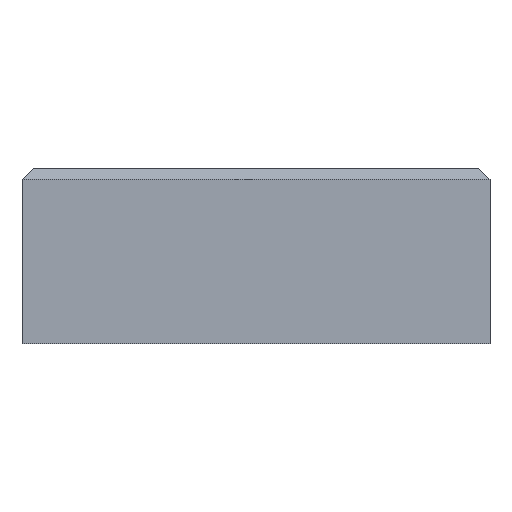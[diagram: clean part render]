
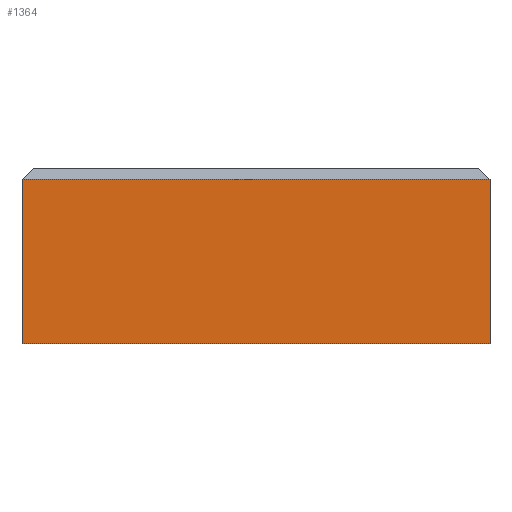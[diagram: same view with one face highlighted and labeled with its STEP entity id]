
A CAD part, front view. The second image highlights one B-rep face of the part: STEP entity #1364.
In plain terms, the highlighted planar face has unit normal (0, -1, 0).
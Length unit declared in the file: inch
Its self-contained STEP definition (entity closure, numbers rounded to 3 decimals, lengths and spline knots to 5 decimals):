
#170=FACE_OUTER_BOUND('',#250,.T.);
#250=EDGE_LOOP('',(#1243,#1244,#1245,#1246));
#315=LINE('',#2064,#459);
#322=LINE('',#2079,#466);
#343=LINE('',#2152,#487);
#394=LINE('',#2290,#538);
#459=VECTOR('',#1651,0.3937);
#466=VECTOR('',#1666,0.3937);
#487=VECTOR('',#1745,0.3937);
#538=VECTOR('',#1896,0.3937);
#598=VERTEX_POINT('',#2056);
#600=VERTEX_POINT('',#2062);
#604=VERTEX_POINT('',#2078);
#627=VERTEX_POINT('',#2151);
#745=EDGE_CURVE('',#600,#598,#315,.T.);
#752=EDGE_CURVE('',#604,#598,#322,.T.);
#790=EDGE_CURVE('',#627,#604,#343,.T.);
#858=EDGE_CURVE('',#627,#600,#394,.T.);
#1243=ORIENTED_EDGE('',*,*,#745,.F.);
#1244=ORIENTED_EDGE('',*,*,#858,.F.);
#1245=ORIENTED_EDGE('',*,*,#790,.T.);
#1246=ORIENTED_EDGE('',*,*,#752,.T.);
#1292=PLANE('',#1508);
#1364=ADVANCED_FACE('',(#170),#1292,.T.);
#1508=AXIS2_PLACEMENT_3D('',#2291,#1897,#1898);
#1651=DIRECTION('',(1.,0.,0.));
#1666=DIRECTION('',(0.,0.,1.));
#1745=DIRECTION('',(1.,0.,0.));
#1896=DIRECTION('',(0.,0.,1.));
#1897=DIRECTION('center_axis',(0.,-1.,0.));
#1898=DIRECTION('ref_axis',(1.,0.,0.));
#2056=CARTESIAN_POINT('',(0.15,-0.58634,0.865));
#2062=CARTESIAN_POINT('',(-2.312,-0.58634,0.865));
#2064=CARTESIAN_POINT('',(-1.6965,-0.58634,0.865));
#2078=CARTESIAN_POINT('',(0.15,-0.58634,0.));
#2079=CARTESIAN_POINT('',(0.15,-0.58634,0.));
#2151=CARTESIAN_POINT('',(-2.312,-0.58634,0.));
#2152=CARTESIAN_POINT('',(-2.312,-0.58634,0.));
#2290=CARTESIAN_POINT('',(-2.312,-0.58634,0.));
#2291=CARTESIAN_POINT('Origin',(-2.312,-0.58634,0.));
